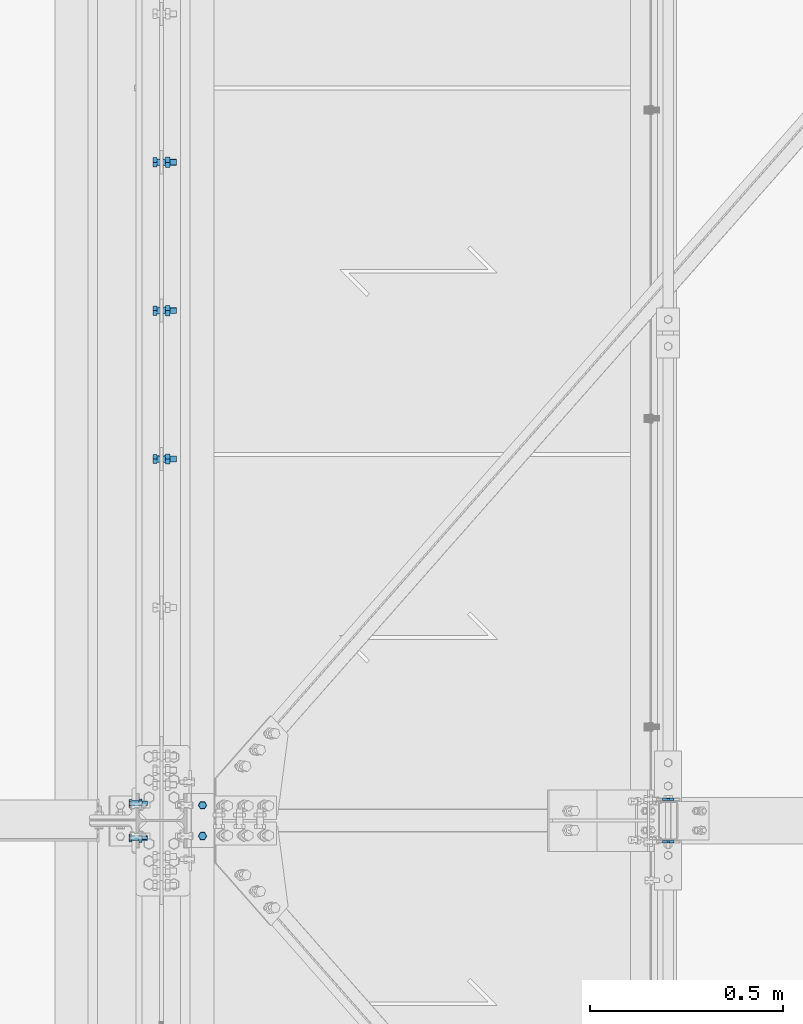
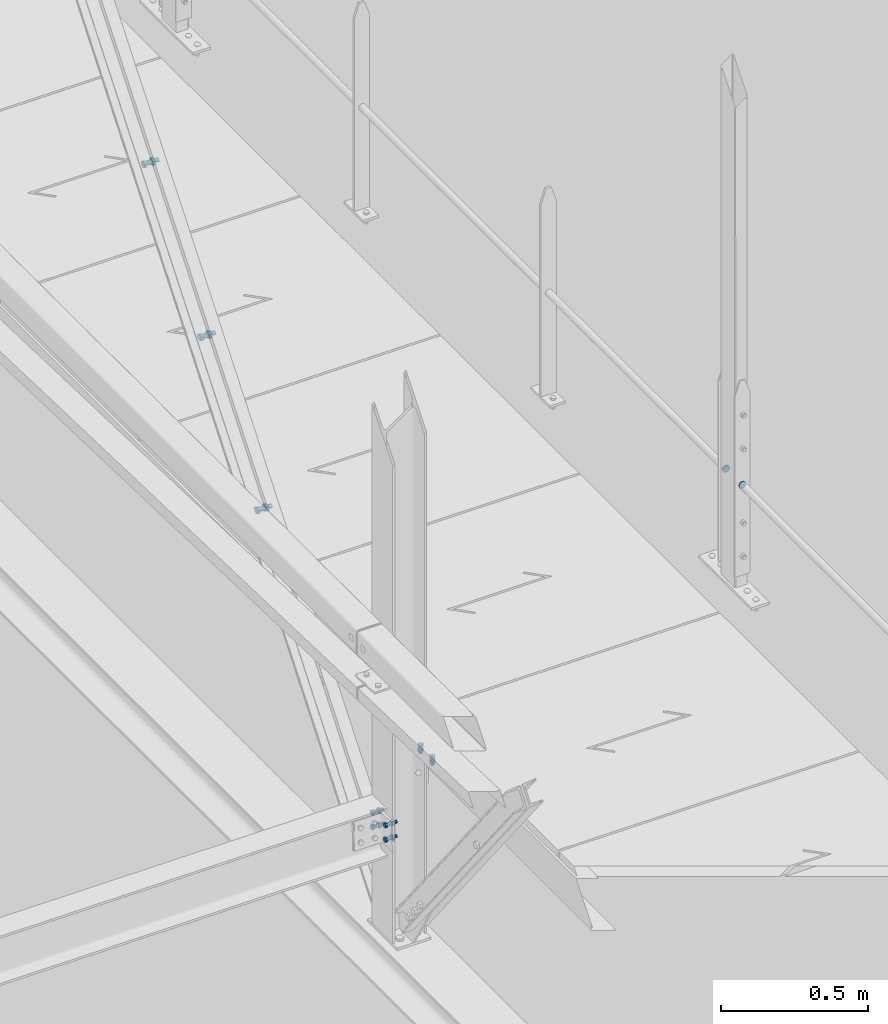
# One storey, part 245 of 362: 11 mechanical fasteners.
"""IFC2X3 building model written with IfcOpenShell, lengths in millimetres."""

from ifc_helpers import new_model, si_unit, frame, origin_with_axes, origin_2d_with_axis, place, context, subcontext, project, spatial, polyline, circle, outline, extrude, source, transform, mapped, material, type_object, element, save


model = new_model("IFC2X3")

# Units and contexts
model_context = context("Model", 3, precision=1e-05, world=origin_with_axes())
body_context = subcontext(model_context, "Body", "Model", "MODEL_VIEW")
ifc_project = project(units=[si_unit("LENGTHUNIT", "METRE", prefix="MILLI"), si_unit("AREAUNIT", "SQUARE_METRE"), si_unit("VOLUMEUNIT", "CUBIC_METRE"), si_unit("MASSUNIT", "GRAM", prefix="KILO"), si_unit("TIMEUNIT", "SECOND"), si_unit("PLANEANGLEUNIT", "RADIAN"), si_unit("SOLIDANGLEUNIT", "STERADIAN"), si_unit("THERMODYNAMICTEMPERATUREUNIT", "DEGREE_CELSIUS"), si_unit("LUMINOUSINTENSITYUNIT", "LUMEN")], contexts=[model_context])

# Site, building, storey
site_placement = place(None, origin_with_axes())
site = spatial("IfcSite", under=ifc_project, at=site_placement, Name="Undefined", CompositionType="ELEMENT")
building_placement = place(site_placement, origin_with_axes())
building = spatial("IfcBuilding", under=site, at=building_placement, Name="Undefined", CompositionType="ELEMENT")
storey_placement = place(building_placement, origin_with_axes())
storey = spatial("IfcBuildingStorey", under=building, at=storey_placement, Name="Undefined", CompositionType="ELEMENT", Elevation=0.0)

# Mechanical fasteners
ifc_material_1 = material(Name="8.8-SB-ZINGUE")
mechanical_fastener_type = type_object("IfcMechanicalFastenerType", Name="Bolt assembly")
shared_shape_1 = source(origin_with_axes(), body_context, "Body", "SweptSolid", [
    extrude(circle(Radius=9.0, at=origin_2d_with_axis()), frame((0.0, -10.9000000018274, 0.0), z_axis=(0.0, 1.0, 0.0), x_axis=(1.0, 0.0, 0.0)), (0.0, 0.0, 1.0), 6.0),
    extrude(circle(Radius=9.0, at=origin_2d_with_axis()), frame((0.0, 4.9000000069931, 0.0), z_axis=(0.0, 1.0, 0.0), x_axis=(1.0, 0.0, 0.0)), (0.0, 0.0, 1.0), 6.1),
    extrude(circle(Radius=9.0, at=origin_2d_with_axis()), frame((0.0, -3.99999923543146, 0.0), z_axis=(0.0, 1.0, 0.0), x_axis=(1.0, 0.0, 0.0)), (0.0, 0.0, 1.0), 8.0),
    extrude(outline(polyline([(13.85640646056, 0.0), (6.92820323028, 12.0000000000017), (-6.92820323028, 12.0000000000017), (-13.85640646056, 0.0), (-6.92820323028, -12.0000000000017), (6.92820323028, -12.0000000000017), (13.85640646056, 0.0)])), frame((0.0, -21.5600000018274, 0.0), z_axis=(0.0, 1.0, 0.0), x_axis=(1.0, 0.0, 0.0)), (0.0, 0.0, 1.0), 10.56),
    extrude(circle(Radius=8.0, at=origin_2d_with_axis()), frame((0.0, -11.0000000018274, 0.0), z_axis=(0.0, 1.0, 0.0), x_axis=(1.0, 0.0, 0.0)), (0.0, 0.0, 1.0), 50.0),
    extrude(outline(polyline([(15.3344231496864, 0.0), (7.6672115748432, 13.2800000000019), (-7.6672115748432, 13.2800000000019), (-15.3344231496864, 0.0), (-7.6672115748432, -13.2800000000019), (7.6672115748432, -13.2800000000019), (15.3344231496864, 0.0)])), frame((0.0, 11.0000000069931, 0.0), z_axis=(0.0, 1.0, 0.0), x_axis=(1.0, 0.0, 0.0)), (0.0, 0.0, 1.0), 10.56),
])
for number, where, z_axis, x_axis, name in (
    (1, (12680.0, 9307.54101554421, 9401.05232493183), (0.0, 1.0, 0.0), (0.0, 0.0, 1.0), "Bolt assembly"),
    (2, (12680.0, 8922.62304510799, 8916.15697601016), (0.0, 1.0, 0.0), (0.0, 0.0, 1.0), "Bolt assembly"),
    (3, (12680.0, 8537.70507467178, 8431.26162708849), (0.0, 1.0, 0.0), (0.0, 0.0, 1.0), "Bolt assembly"),
):
    element("IfcMechanicalFastener", number, at=place(storey_placement, frame(where, z_axis=z_axis, x_axis=x_axis)), inside=storey, type_object=mechanical_fastener_type, material=ifc_material_1, Name=name, NominalDiameter=16.0, NominalLength=50.0, context=body_context, shape_type="MappedRepresentation", body=[
        mapped(shared_shape_1, transform((0.0, 0.0, 0.0))),
    ])
shared_shape_2 = source(origin_with_axes(), body_context, "Body", "SweptSolid", [
    extrude(circle(Radius=7.0, at=origin_2d_with_axis()), frame((0.0, -4.90000000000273, 0.0), z_axis=(0.0, 1.0, 0.0), x_axis=(1.0, 0.0, 0.0)), (0.0, 0.0, 1.0), 5.0),
    extrude(circle(Radius=7.0, at=origin_2d_with_axis()), frame((0.0, -0.100011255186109, 0.0), z_axis=(0.0, 1.0, 0.0), x_axis=(1.0, 0.0, 0.0)), (0.0, 0.0, 1.0), 7.1),
    extrude(outline(polyline([(10.39230484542, 0.0), (5.19615242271, 9.00000000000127), (-5.19615242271, 9.00000000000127), (-10.39230484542, 0.0), (-5.19615242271, -9.00000000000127), (5.19615242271, -9.00000000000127), (10.39230484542, 0.0)])), frame((0.0, -12.9200004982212, 0.0), z_axis=(0.0, 1.0, 0.0), x_axis=(1.0, 0.0, 0.0)), (0.0, 0.0, 1.0), 7.92),
    extrude(circle(Radius=6.0, at=origin_2d_with_axis()), frame((0.0, -5.00000000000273, 0.0), z_axis=(0.0, 1.0, 0.0), x_axis=(1.0, 0.0, 0.0)), (0.0, 0.0, 1.0), 30.0),
    extrude(outline(polyline([(11.5008173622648, 0.0), (5.7504086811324, 9.96000000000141), (-5.7504086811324, 9.96000000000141), (-11.5008173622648, 0.0), (-5.7504086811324, -9.96000000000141), (5.7504086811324, -9.96000000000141), (11.5008173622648, 0.0)])), frame((0.0, 7.0, 0.0), z_axis=(0.0, 1.0, 0.0), x_axis=(1.0, 0.0, 0.0)), (0.0, 0.0, 1.0), 7.92),
])
for number, where, z_axis, x_axis, name in (
    (4, (12786.5082291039, 7639.99999998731, 7950.00000000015), (0.0, -1.0, 0.0), (-1.0, 0.0, 0.0), "Bolt assembly"),
    (5, (12786.5082291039, 7559.99999998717, 7950.00000000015), (0.0, -1.0, 0.0), (-1.0, 0.0, 0.0), "Bolt assembly"),
):
    element("IfcMechanicalFastener", number, at=place(storey_placement, frame(where, z_axis=z_axis, x_axis=x_axis)), inside=storey, type_object=mechanical_fastener_type, material=ifc_material_1, Name=name, NominalDiameter=12.0, NominalLength=30.0, context=body_context, shape_type="MappedRepresentation", body=[
        mapped(shared_shape_2, transform((0.0, 0.0, 0.0))),
    ])
ifc_material_2 = material(Name="6.8")
shared_shape_3 = source(origin_with_axes(), body_context, "Body", "SweptSolid", [
    extrude(circle(Radius=14.0, at=origin_2d_with_axis()), frame((0.0, -2.5, 0.0), z_axis=(0.0, 1.0, 0.0), x_axis=(1.0, 0.0, 0.0)), (0.0, 0.0, 1.0), 5.1),
])
for number, where, z_axis, x_axis, name in (
    (6, (13993.9998882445, 7545.000009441, 8673.80000207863), (0.0, 0.0, 1.0), (-1.0, 0.0, 0.0), "Bolt assembly"),
    (7, (13993.9998883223, 7655.00000943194, 8673.80000200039), (0.0, 0.0, 1.0), (-1.0, 0.0, 0.0), "Bolt assembly"),
):
    element("IfcMechanicalFastener", number, at=place(storey_placement, frame(where, z_axis=z_axis, x_axis=x_axis)), inside=storey, type_object=mechanical_fastener_type, material=ifc_material_2, Name=name, NominalDiameter=27.0, NominalLength=10.0, context=body_context, shape_type="MappedRepresentation", body=[
        mapped(shared_shape_3, transform((0.0, 0.0, 0.0))),
    ])
shared_shape_4 = source(origin_with_axes(), body_context, "Body", "SweptSolid", [
    extrude(circle(Radius=7.0, at=origin_2d_with_axis()), frame((0.0, -0.100011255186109, 0.0), z_axis=(0.0, 1.0, 0.0), x_axis=(1.0, 0.0, 0.0)), (0.0, 0.0, 1.0), 8.6),
    extrude(circle(Radius=7.0, at=origin_2d_with_axis()), frame((0.0, -9.9, 0.0), z_axis=(0.0, 1.0, 0.0), x_axis=(1.0, 0.0, 0.0)), (0.0, 0.0, 1.0), 10.0),
    extrude(outline(polyline([(10.39230484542, 0.0), (5.19615242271, 9.00000000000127), (-5.19615242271, 9.00000000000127), (-10.39230484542, 0.0), (-5.19615242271, -9.00000000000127), (5.19615242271, -9.00000000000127), (10.39230484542, 0.0)])), frame((0.0, -17.92, 0.0), z_axis=(0.0, 1.0, 0.0), x_axis=(1.0, 0.0, 0.0)), (0.0, 0.0, 1.0), 7.92),
    extrude(circle(Radius=6.0, at=origin_2d_with_axis()), frame((0.0, -10.0000010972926, 0.0), z_axis=(0.0, 1.0, 0.0), x_axis=(1.0, 0.0, 0.0)), (0.0, 0.0, 1.0), 40.0),
    extrude(outline(polyline([(11.5008173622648, 0.0), (5.7504086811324, 9.96000000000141), (-5.7504086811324, 9.96000000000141), (-11.5008173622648, 0.0), (-5.7504086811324, -9.96000000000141), (5.7504086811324, -9.96000000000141), (11.5008173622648, 0.0)])), frame((0.0, 8.49999994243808, 0.0), z_axis=(0.0, 1.0, 0.0), x_axis=(1.0, 0.0, 0.0)), (0.0, 0.0, 1.0), 7.92),
])
for number, where, z_axis, x_axis, name in (
    (8, (12613.5000013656, 7645.00005423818, 7739.71154918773), (0.0, 0.0, -1.0), (0.0, 1.0, 0.0), "Bolt assembly"),
    (9, (12613.5000013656, 7645.00005423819, 7679.68192732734), (0.0, 0.0, -1.0), (0.0, 1.0, 0.0), "Bolt assembly"),
    (10, (12613.5000013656, 7555.00005423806, 7682.51033263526), (0.0, 0.0, 1.0), (0.0, -1.0, 0.0), "Bolt assembly"),
    (11, (12613.5000013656, 7555.00005423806, 7742.53995449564), (0.0, 0.0, 1.0), (0.0, -1.0, 0.0), "Bolt assembly"),
):
    element("IfcMechanicalFastener", number, at=place(storey_placement, frame(where, z_axis=z_axis, x_axis=x_axis)), inside=storey, type_object=mechanical_fastener_type, material=ifc_material_1, Name=name, NominalDiameter=12.0, NominalLength=40.0, context=body_context, shape_type="MappedRepresentation", body=[
        mapped(shared_shape_4, transform((0.0, 0.0, 0.0))),
    ])

save(model, "model.ifc")
